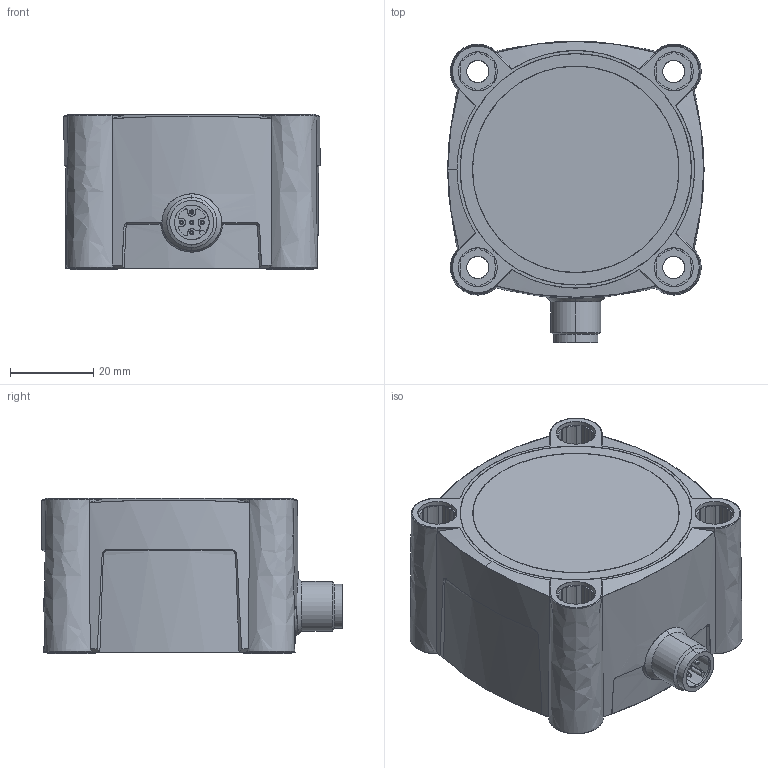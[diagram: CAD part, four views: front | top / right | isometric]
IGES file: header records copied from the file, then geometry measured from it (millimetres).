
Start section: SolidWorks IGES file using analytic representation for surfaces
Global section: file name: Z:\Projekte\Kunststoff-Blechteile\Zeichnungen\Bibliothek Inventor\3D Solids\lcs+\IGS\lcs+600\lcs+600_NG.IGS; native system: SolidWorks 2021; preprocessor: SolidWorks 2021; author: Oliver Liedtke; date: 230620.131852; units: millimetre
Bounding box: 61.47 x 72.18 x 37.2 mm (x, y, z)
Surface area: 20156.1 mm2 (no closed solid volume)
Topology: 0 solids, 0 shells, 675 faces, 7897 edges, 7891 vertices
Faces by surface type: bspline 434, revolution 241
